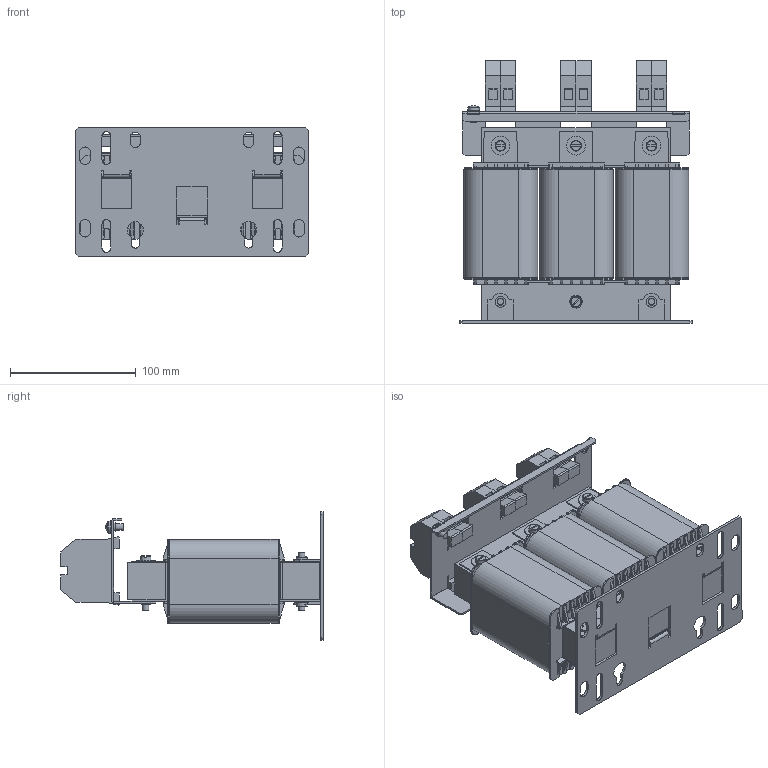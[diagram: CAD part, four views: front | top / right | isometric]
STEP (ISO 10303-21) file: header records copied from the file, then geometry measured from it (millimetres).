
FILE_DESCRIPTION (( 'STEP AP214' ), '1' );
FILE_NAME ('PCT-050.STEP', '2015-04-28T10:59:06', ( 'EDV' ), ( 'Microsoft' ), 'SwSTEP 2.0', 'SolidWorks 2014', '' );
FILE_SCHEMA (( 'AUTOMOTIVE_DESIGN' ));
Length unit declared in the file: millimetre
Products named in the file (12): RK16-35N; Wickel 3UI 90_31,5; UI90-31,5-oD; #040-1069; #144-0148; 3UI90-29,5_Luftspalt1,4mm; #040-0876; PCT-050; Pan Head Cross Recess Screw_DIN_ISO 7045 - M5 x 10 - Z --- 10N; Plain Washer Grade A_DIN_Washer DIN 125 - A 5.3; Slotted Cheese Head Screw_DIN_ISO 1207 - M5 x 40 --- 40N; Plain Washer Large_DIN_Washer DIN 9021 - 5.3
Assembly tree (31 placements, depth 2):
  PCT-050
    #040-0876
    3UI90-29,5_Luftspalt1,4mm
    #144-0148  x2
    #040-1069
    UI90-31,5-oD  x3
    Wickel 3UI 90_31,5  x3
    RK16-35N  x6
    Plain Washer Large_DIN_Washer DIN 9021 - 5.3  x3
    Slotted Cheese Head Screw_DIN_ISO 1207 - M5 x 40 --- 40N  x6
    Plain Washer Grade A_DIN_Washer DIN 125 - A 5.3  x4
    Pan Head Cross Recess Screw_DIN_ISO 7045 - M5 x 10 - Z --- 10N
Bounding box: 185 x 208.5 x 102 mm (x, y, z)
Volume: 1468219.5 mm3; surface area: 495023.5 mm2
Topology: 37 solids, 37 shells, 2559 faces, 6508 edges, 4104 vertices
Faces by surface type: plane 1562, cylinder 601, torus 302, bspline 82, cone 11, sphere 1
Full cylindrical faces by diameter (mm): 3.01 x1, 4.2 x2, 5 x10, 5.3 x7, 5.5 x3, 6.2 x6, 6.5 x12, 6.95 x1, 7 x5, 7.15 x1, 8.5 x9, 9.5 x1, 10 x4, 15 x3
Entity records: 50552 total; most frequent: CARTESIAN_POINT 12621, ORIENTED_EDGE 7158, DIRECTION 6744, EDGE_CURVE 3579, VECTOR 2744, LINE 2744, VERTEX_POINT 2313, AXIS2_PLACEMENT_3D 2000
